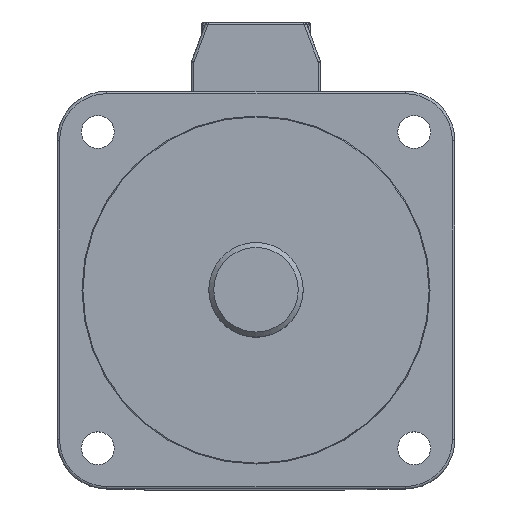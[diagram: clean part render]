
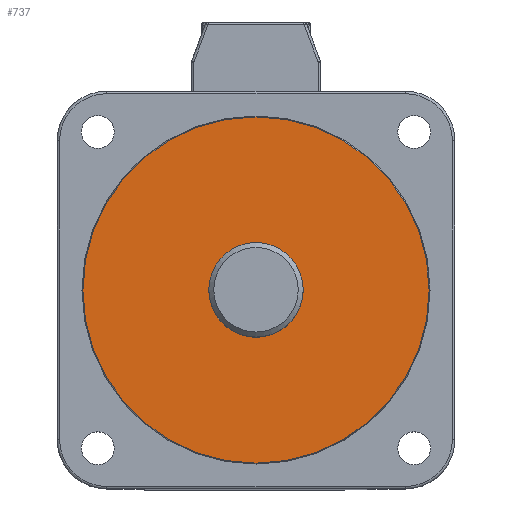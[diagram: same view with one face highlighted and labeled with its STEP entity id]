
A CAD part, top view. The second image highlights one B-rep face of the part: STEP entity #737.
In plain terms, the highlighted planar face has unit normal (0, 0, 1).
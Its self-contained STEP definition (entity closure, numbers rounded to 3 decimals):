
#737=ADVANCED_FACE('',(#1914,#1915),#1076,.F.);
#1076=PLANE('',#5496);
#1914=FACE_BOUND('',#1947,.T.);
#1915=FACE_BOUND('',#1948,.T.);
#1947=EDGE_LOOP('',(#2327));
#1948=EDGE_LOOP('',(#2328));
#2327=ORIENTED_EDGE('',*,*,#4355,.T.);
#2328=ORIENTED_EDGE('',*,*,#4351,.F.);
#3889=VERTEX_POINT('',#8033);
#3893=VERTEX_POINT('',#8044);
#4351=EDGE_CURVE('',#3889,#3889,#5122,.T.);
#4355=EDGE_CURVE('',#3893,#3893,#5126,.T.);
#5122=CIRCLE('',#5488,9.5);
#5126=CIRCLE('',#5495,34.818);
#5488=AXIS2_PLACEMENT_3D('',#8032,#6231,#6232);
#5495=AXIS2_PLACEMENT_3D('',#8043,#6245,#6246);
#5496=AXIS2_PLACEMENT_3D('',#8045,#6247,#6248);
#6231=DIRECTION('',(0.,0.,1.));
#6232=DIRECTION('',(1.,0.,0.));
#6245=DIRECTION('',(0.,0.,1.));
#6246=DIRECTION('',(-1.,0.,0.));
#6247=DIRECTION('',(0.,0.,-1.));
#6248=DIRECTION('',(-1.,0.,0.));
#8032=CARTESIAN_POINT('',(0.,0.,0.));
#8033=CARTESIAN_POINT('',(9.5,0.,0.));
#8043=CARTESIAN_POINT('',(0.,0.,0.));
#8044=CARTESIAN_POINT('',(-34.818,0.,0.));
#8045=CARTESIAN_POINT('',(0.,0.,0.));
